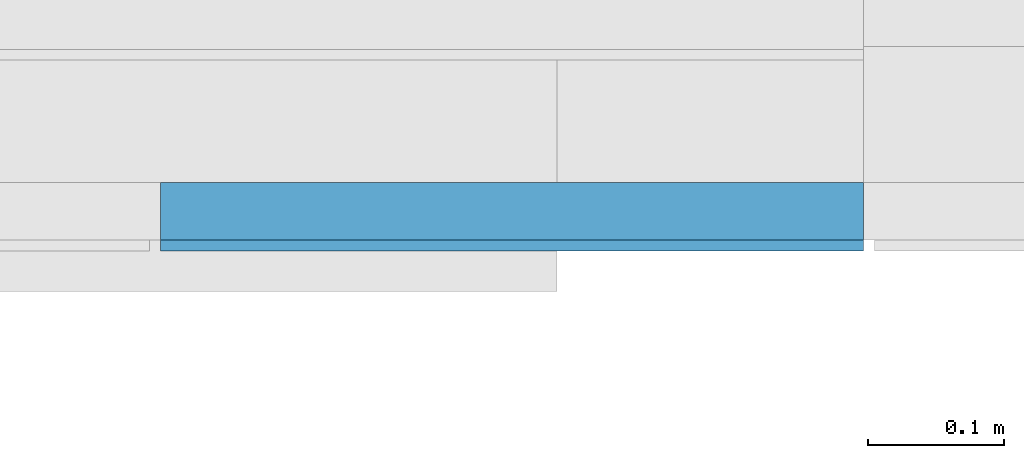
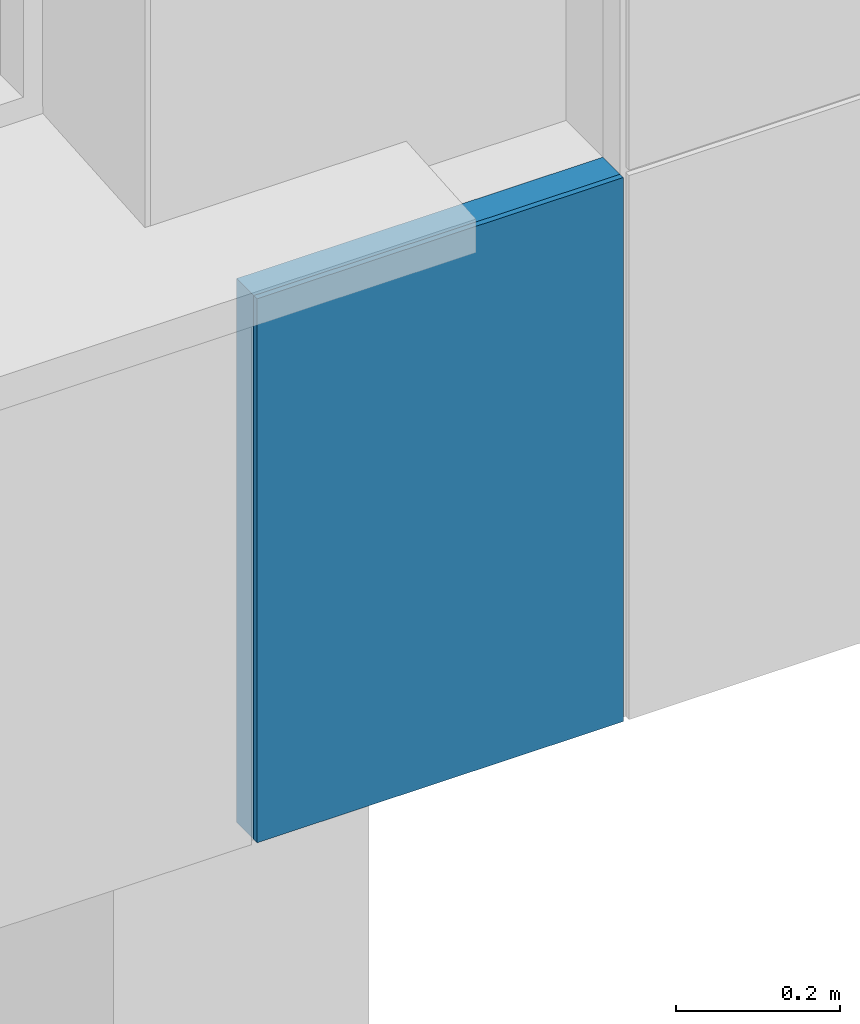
# One storey, part 66 of 418: 2 building element parts, 1 element without a shape of its own.
"""IFC2X3 building model written with IfcOpenShell, lengths in millimetres."""

import ifcopenshell
import ifcopenshell.guid

model = None  # the IFC model being written
_history = None  # IfcOwnerHistory: only IFC2X3 demands one
_inside = {}  # id of a spatial element -> (the spatial element, [elements in it])
_under = {}  # id of a project, library or spatial element -> (it, [spatial elements below it])
_declared = {}  # id of a project -> (the project, [libraries it declares])
_typed = {}  # id of a type object -> (the type object, [elements of that type])
_made_of = {}  # id of a material, layer set ... -> (it, [elements and type objects made of it])


def new_model(schema):
    """Start an empty IFC model of exactly this schema.

    Asked for "IFC4X3", IfcOpenShell would pick the latest addendum, in which some entities
    have other attributes; the version numbers below select the first issue.
    IFC2X3 requires an IfcOwnerHistory on every rooted entity: one is made here for all.
    """
    global model, _history
    if schema == "IFC4X3":
        model = ifcopenshell.file(schema_version=(4, 3, 0, 0))
    else:
        model = ifcopenshell.file(schema=schema)
    _inside.clear()
    _under.clear()
    _declared.clear()
    _typed.clear()
    _made_of.clear()
    _history = None
    if model.schema == "IFC2X3":
        org = make("IfcOrganization", Name="unknown")
        user = make(
            "IfcPersonAndOrganization",
            ThePerson=make("IfcPerson", FamilyName="unknown"),
            TheOrganization=org,
        )
        app = make(
            "IfcApplication",
            ApplicationDeveloper=org,
            Version="unknown",
            ApplicationFullName="unknown",
            ApplicationIdentifier="unknown",
        )
        _history = make(
            "IfcOwnerHistory",
            OwningUser=user,
            OwningApplication=app,
            ChangeAction="ADDED",
            CreationDate=0,
        )
    return model


def make(cls, **values):
    """One entity of the class cls with the attributes given. An attribute that is None is left unset."""
    return model.create_entity(
        cls, **{name: value for name, value in values.items() if value is not None}
    )


def entity(cls, *values):
    """Any entity or typed value of the class cls, its attributes in the order of the schema. None: left unset."""
    e = model.create_entity(cls)
    for i, value in enumerate(values):
        if value is not None:
            e[i] = value
    return e


def rooted(cls, **values):
    """An entity with a GlobalId (a new one), such as an element, a storey or a relation."""
    return make(cls, GlobalId=ifcopenshell.guid.new(), OwnerHistory=_history, **values)


def si_unit(unit_type, name, prefix=None):
    """IfcSIUnit, for example si_unit("LENGTHUNIT", "METRE", prefix="MILLI")."""
    return make("IfcSIUnit", UnitType=unit_type, Prefix=prefix, Name=name)


def converted_unit(unit_type, name, factor, base, dimensions=None, offset=None):
    """IfcConversionBasedUnit, such as the inch: factor (a typed value) times the base unit."""
    return make(
        "IfcConversionBasedUnit"
        if offset is None
        else "IfcConversionBasedUnitWithOffset",
        ConversionOffset=offset,
        Dimensions=None
        if dimensions is None
        else entity("IfcDimensionalExponents", *dimensions),
        UnitType=unit_type,
        Name=name,
        ConversionFactor=make(
            "IfcMeasureWithUnit", ValueComponent=factor, UnitComponent=base
        ),
    )


def derived_unit(unit_type, elements):
    """IfcDerivedUnit: a product of units, each with its exponent."""
    return make(
        "IfcDerivedUnit",
        Elements=[
            make("IfcDerivedUnitElement", Unit=unit, Exponent=power)
            for unit, power in elements
        ],
        UnitType=unit_type,
    )


def money_unit(currency):
    """IfcMonetaryUnit."""
    return make("IfcMonetaryUnit", Currency=currency)


def assignment(units):
    """IfcUnitAssignment: the units of a project."""
    return None if units is None else make("IfcUnitAssignment", Units=units)


def point(xyz):
    """IfcCartesianPoint."""
    return None if xyz is None else make("IfcCartesianPoint", Coordinates=xyz)


def direction(xyz):
    """IfcDirection."""
    return None if xyz is None else make("IfcDirection", DirectionRatios=xyz)


def frame(location, z_axis=None, x_axis=None):
    """IfcAxis2Placement3D, a coordinate frame: its origin and axes. An axis left out is left unset."""
    return make(
        "IfcAxis2Placement3D",
        Location=point(location),
        Axis=direction(z_axis),
        RefDirection=direction(x_axis),
    )


def origin_with_axes():
    """The frame at (0, 0, 0) with the z axis (0, 0, 1) and the x axis (1, 0, 0) written out."""
    return frame((0.0, 0.0, 0.0), z_axis=(0.0, 0.0, 1.0), x_axis=(1.0, 0.0, 0.0))


def place(relative_to, where):
    """IfcLocalPlacement: puts the frame where relative to a parent placement (None: the world)."""
    return make(
        "IfcLocalPlacement", PlacementRelTo=relative_to, RelativePlacement=where
    )


def context(
    kind, dimensions, precision=None, world=None, true_north=None, identifier=None
):
    """IfcGeometricRepresentationContext, for example the 3D "Model" context."""
    return make(
        "IfcGeometricRepresentationContext",
        ContextIdentifier=identifier,
        ContextType=kind,
        CoordinateSpaceDimension=dimensions,
        Precision=precision,
        WorldCoordinateSystem=world,
        TrueNorth=true_north,
    )


def subcontext(parent, identifier, kind, view, scale=None):
    """IfcGeometricRepresentationSubContext, for example "Body" below "Model"."""
    return make(
        "IfcGeometricRepresentationSubContext",
        ContextIdentifier=identifier,
        ContextType=kind,
        ParentContext=parent,
        TargetScale=scale,
        TargetView=view,
    )


def project(units=None, contexts=None):
    """IfcProject with its units and contexts."""
    return rooted(
        "IfcProject",
        Name="project",
        RepresentationContexts=contexts,
        UnitsInContext=assignment(units),
    )


def spatial(cls, under=None, at=None, **own):
    """A site, building, storey or space (cls), placed at a placement, below another one or the project."""
    s = rooted(cls, ObjectPlacement=at, **own)
    if under is not None:
        _under.setdefault(under.id(), (under, []))[1].append(s)
    return s


def polyline(points):
    """IfcPolyline through the points."""
    return make("IfcPolyline", Points=[point(p) for p in points])


def outline(outer, holes=None, kind="AREA"):
    """IfcArbitraryClosedProfileDef: a profile drawn as a closed curve; with holes, ...WithVoids."""
    if holes is None:
        return make("IfcArbitraryClosedProfileDef", ProfileType=kind, OuterCurve=outer)
    return make(
        "IfcArbitraryProfileDefWithVoids",
        ProfileType=kind,
        OuterCurve=outer,
        InnerCurves=holes,
    )


def extrude(swept, where, along, depth):
    """IfcExtrudedAreaSolid: the profile swept, set in the frame where, extruded along a direction by depth."""
    return make(
        "IfcExtrudedAreaSolid",
        SweptArea=swept,
        Position=where,
        ExtrudedDirection=direction(along),
        Depth=depth,
    )


def shape(context_of_items, identifier, shape_type, items):
    """IfcShapeRepresentation: the items that make up one representation, for example the "Body"."""
    return make(
        "IfcShapeRepresentation",
        ContextOfItems=context_of_items,
        RepresentationIdentifier=identifier,
        RepresentationType=shape_type,
        Items=items,
    )


def material(Name=None, Category=None):
    """IfcMaterial."""
    return make("IfcMaterial", Name=Name, Category=Category)


def made_of(thing, what):
    """Note that an element or type object is made of a material, layer set ...; save() writes the relation."""
    if what is not None:
        _made_of.setdefault(what.id(), (what, []))[1].append(thing)
    return thing


def type_object(cls, material=None, **own):
    """A type object (cls), such as IfcWallType, which elements share."""
    return made_of(rooted(cls, **own), material)


def element(
    cls,
    number,
    at=None,
    inside=None,
    cuts=None,
    type_object=None,
    material=None,
    context=None,
    identifier="Body",
    shape_type=None,
    held_by="IfcProductDefinitionShape",
    body=None,
    shapes=None,
    **own,
):
    """One element of the class cls, such as IfcWall. Its Tag is "e" and its number.

    at: its placement. inside: the storey or other place that contains it. cuts: it is an
    opening in that element (IfcRelVoidsElement). A single representation is given by context,
    identifier, shape_type and body (its items); several are given by shapes. held_by: the class
    of the entity that holds the representations. save() writes the other relations.
    """
    e = rooted(cls, Tag="e%d" % number, ObjectPlacement=at, **own)
    if body is not None:
        shapes = [shape(context, identifier, shape_type, body)]
    if shapes is not None:
        e.Representation = make(held_by, Representations=shapes)
    if inside is not None:
        _inside.setdefault(inside.id(), (inside, []))[1].append(e)
    if cuts is not None:
        rooted(
            "IfcRelVoidsElement", RelatingBuildingElement=cuts, RelatedOpeningElement=e
        )
    if type_object is not None:
        _typed.setdefault(type_object.id(), (type_object, []))[1].append(e)
    return made_of(e, material)


def aggregate(whole, parts):
    """IfcRelAggregates: a whole, such as a stair, and the parts it consists of."""
    return rooted("IfcRelAggregates", RelatingObject=whole, RelatedObjects=parts)


def save(model, path):
    """Write the relations noted so far, then the file.

    IfcRelAggregates (storeys below a building ...), IfcRelContainedInSpatialStructure (elements
    in a storey), IfcRelDefinesByType, IfcRelAssociatesMaterial and IfcRelDeclares: one each for
    every whole, place, type object, material and project.
    """
    for whole, parts in _under.values():
        aggregate(whole, parts)
    for where, things in _inside.values():
        rooted(
            "IfcRelContainedInSpatialStructure",
            RelatedElements=things,
            RelatingStructure=where,
        )
    for kind, things in _typed.values():
        rooted("IfcRelDefinesByType", RelatedObjects=things, RelatingType=kind)
    for what, things in _made_of.values():
        rooted("IfcRelAssociatesMaterial", RelatedObjects=things, RelatingMaterial=what)
    for by, libraries in _declared.values():
        rooted("IfcRelDeclares", RelatingContext=by, RelatedDefinitions=libraries)
    model.write(path)


model = new_model("IFC2X3")

# Units and contexts
model_context = context("Model", 3, precision=0.01, world=origin_with_axes(), true_north=direction((0.0, 1.0)))
body_context = subcontext(model_context, "Body", "Model", "MODEL_VIEW")
ifc_project = project(units=[si_unit("LENGTHUNIT", "METRE", prefix="MILLI"), si_unit("AREAUNIT", "SQUARE_METRE"), si_unit("VOLUMEUNIT", "CUBIC_METRE"), converted_unit("PLANEANGLEUNIT", "DEGREE", entity("IfcPlaneAngleMeasure", 0.0174532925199), si_unit("PLANEANGLEUNIT", "RADIAN"), dimensions=[0, 0, 0, 0, 0, 0, 0]), si_unit("SOLIDANGLEUNIT", "STERADIAN"), money_unit("EUR"), converted_unit("TIMEUNIT", "Year", entity("IfcTimeMeasure", 31556926.0), si_unit("TIMEUNIT", "SECOND"), dimensions=[0, 0, 1, 0, 0, 0, 0]), si_unit("MASSUNIT", "GRAM", prefix="KILO"), si_unit("THERMODYNAMICTEMPERATUREUNIT", "DEGREE_CELSIUS"), si_unit("LUMINOUSINTENSITYUNIT", "LUMEN"), si_unit("ENERGYUNIT", "JOULE", prefix="MEGA"), derived_unit("THERMALCONDUCTANCEUNIT", [(si_unit("POWERUNIT", "WATT"), 1), (si_unit("LENGTHUNIT", "METRE"), -1), (si_unit("THERMODYNAMICTEMPERATUREUNIT", "KELVIN"), -1)]), derived_unit("SPECIFICHEATCAPACITYUNIT", [(si_unit("ENERGYUNIT", "JOULE"), 1), (si_unit("MASSUNIT", "GRAM", prefix="KILO"), -1), (si_unit("THERMODYNAMICTEMPERATUREUNIT", "KELVIN"), -1)]), derived_unit("MASSDENSITYUNIT", [(si_unit("MASSUNIT", "GRAM", prefix="KILO"), 1), (si_unit("VOLUMEUNIT", "CUBIC_METRE"), -1)])], contexts=[model_context])

# Site, building, storey
site_placement = place(None, origin_with_axes())
site = spatial("IfcSite", under=ifc_project, at=site_placement, Name="Paldiski mnt 245/1, Tallinn, Harjumaa", CompositionType="COMPLEX")
building_placement = place(site_placement, origin_with_axes())
building = spatial("IfcBuilding", under=site, at=building_placement, Name="RKAS Hoone üldnimetus (kasutust iseloomustav) -> IFC Project Manager -> SOLIBRI", CompositionType="ELEMENT")
storey_placement = place(building_placement, origin_with_axes())
storey = spatial("IfcBuildingStorey", under=building, at=storey_placement, Name="Esimene korrus", CompositionType="ELEMENT", Elevation=0.0)

# Covering, building element parts
covering_type = type_object("IfcCoveringType", Name="VS-02_Cembrit_c040 50", PredefinedType="NOTDEFINED")
covering_placement = place(storey_placement, frame((-17746.0, -13130.0843011, 0.0), z_axis=(0.0, 0.0, 1.0), x_axis=(1.0, 0.0, 0.0)))
covering = element("IfcCovering", 1, at=covering_placement, inside=storey, type_object=covering_type, Name="VS-02", PredefinedType="NOTDEFINED")
ifc_material_1 = material(Name="Cembrit_C040")
building_element_part_1_placement = place(covering_placement, origin_with_axes())
building_element_part_1 = element("IfcBuildingElementPart", 2, at=building_element_part_1_placement, material=ifc_material_1, Name="Cembrit_C040", context=body_context, shape_type="SweptSolid", body=[
    extrude(outline(polyline([(0.0, 0.0), (516.0, 0.0), (516.0, 8.0), (0.0, 8.0), (0.0, 0.0)])), origin_with_axes(), (0.0, 0.0, 1.0), 810.0),
])
ifc_material_2 = material(Name="VKR-06_Õhkvahe")
building_element_part_2_placement = place(covering_placement, origin_with_axes())
building_element_part_2 = element("IfcBuildingElementPart", 3, at=building_element_part_2_placement, material=ifc_material_2, Name="VKR-06_Õhkvahe", context=body_context, shape_type="SweptSolid", body=[
    extrude(outline(polyline([(0.0, 8.0), (516.0, 8.0), (516.0, 50.0), (0.0, 50.0), (0.0, 8.0)])), origin_with_axes(), (0.0, 0.0, 1.0), 810.0),
])
aggregate(covering, [building_element_part_1, building_element_part_2])

save(model, "model.ifc")
